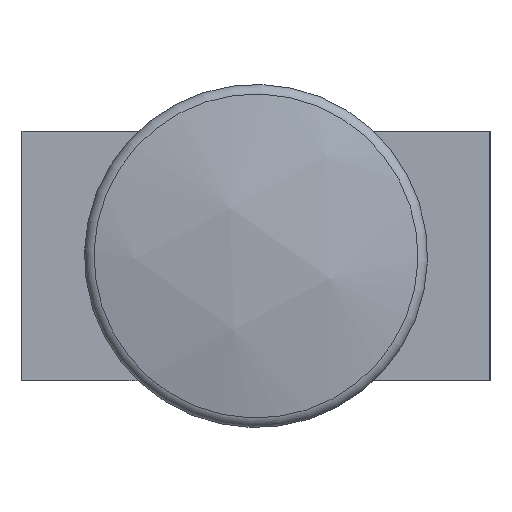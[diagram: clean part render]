
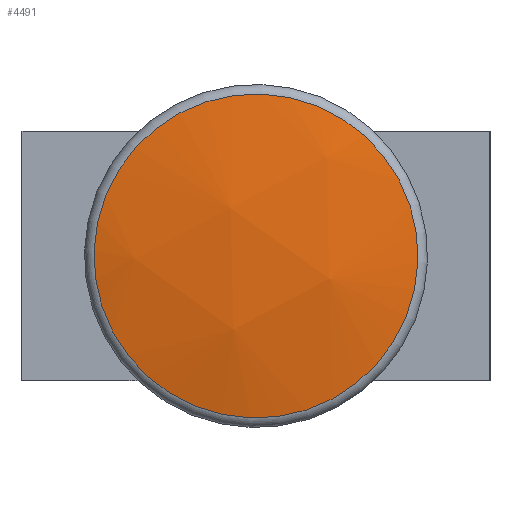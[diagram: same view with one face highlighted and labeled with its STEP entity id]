
A CAD part, left-side view. The second image highlights one B-rep face of the part: STEP entity #4491.
In plain terms, the highlighted spherical face has radius 45 mm.
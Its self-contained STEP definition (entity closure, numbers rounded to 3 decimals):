
#42=SPHERICAL_SURFACE('',#4749,45.);
#796=ORIENTED_EDGE('',*,*,#1569,.T.);
#1569=EDGE_CURVE('',#1966,#1966,#2257,.T.);
#1966=VERTEX_POINT('',#6031);
#2257=CIRCLE('',#4748,10.385);
#2384=EDGE_LOOP('',(#796));
#2708=FACE_BOUND('',#2384,.T.);
#4491=ADVANCED_FACE('',(#2708),#42,.T.);
#4748=AXIS2_PLACEMENT_3D('',#6030,#5117,#5118);
#4749=AXIS2_PLACEMENT_3D('',#6032,#5119,#5120);
#5117=DIRECTION('',(-1.,0.,0.));
#5118=DIRECTION('',(0.,-0.47,-0.883));
#5119=DIRECTION('',(0.,-0.47,-0.883));
#5120=DIRECTION('',(1.,0.,0.));
#6030=CARTESIAN_POINT('',(-87.586,0.,0.));
#6031=CARTESIAN_POINT('',(-87.586,-4.876,-9.169));
#6032=CARTESIAN_POINT('',(-43.8,0.,0.));
